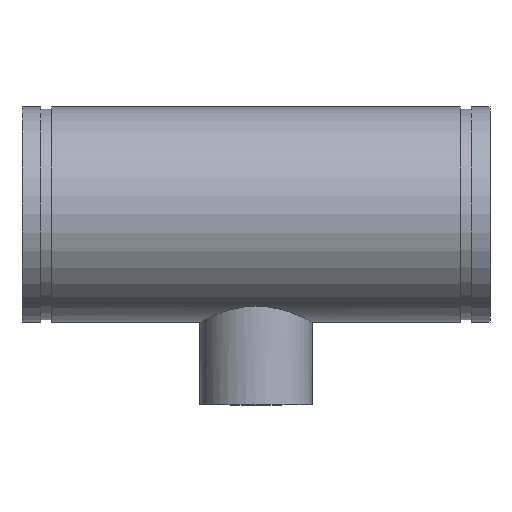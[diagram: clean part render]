
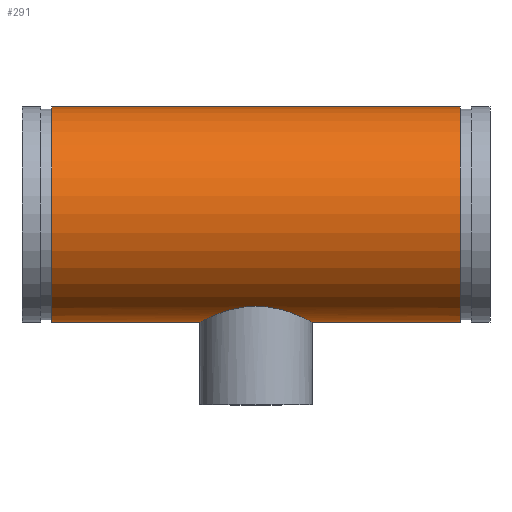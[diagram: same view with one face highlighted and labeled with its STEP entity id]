
A CAD part, top view. The second image highlights one B-rep face of the part: STEP entity #291.
In plain terms, the highlighted cylindrical face has radius 109.537 mm (diameter 219.075 mm), a full revolution.
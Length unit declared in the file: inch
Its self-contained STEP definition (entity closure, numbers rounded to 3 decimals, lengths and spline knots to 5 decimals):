
#45=B_SPLINE_CURVE_WITH_KNOTS('',3,(#511,#512,#513,#514,#515,#516,#517,
#518,#519,#520,#521,#522,#523,#524,#525,#526,#527,#528,#529,#530,#531,#532,
#533,#534,#535,#536,#537,#538,#539,#540,#541,#542,#543,#544,#545,#546,#547,
#548,#549,#550,#551,#552,#553,#554,#555,#556,#557,#558,#559,#560),
 .UNSPECIFIED.,.F.,.F.,(4,2,2,2,2,2,2,2,2,2,2,2,2,2,2,2,2,2,2,2,2,2,2,2,
4),(0.,1.10251,2.20503,3.30754,4.41005,
5.50891,6.60776,7.70662,8.80548,9.90433,
11.00319,12.10205,13.20091,14.30342,15.40593,
16.50844,17.61096,18.71347,19.81598,20.91849,
22.02101,23.11986,24.21872,25.31758,26.41643),
 .UNSPECIFIED.);
#46=B_SPLINE_CURVE_WITH_KNOTS('',3,(#561,#562,#563,#564,#565,#566,#567,
#568,#569,#570,#571,#572,#573,#574,#575,#576,#577,#578),.UNSPECIFIED.,.F.,
 .F.,(4,2,2,2,2,2,2,2,4),(26.41643,27.51529,28.61415,
29.713,30.81186,31.91437,33.01689,34.1194,
35.22191),.UNSPECIFIED.);
#51=LINE('',#508,#59);
#59=VECTOR('',#410,4.3125);
#67=CYLINDRICAL_SURFACE('',#338,4.3125);
#77=FACE_BOUND('',#108,.T.);
#88=FACE_OUTER_BOUND('',#107,.T.);
#107=EDGE_LOOP('',(#221,#222,#223,#224));
#108=EDGE_LOOP('',(#225,#226));
#121=CIRCLE('',#321,4.3125);
#132=CIRCLE('',#337,4.3125);
#141=VERTEX_POINT('',#476);
#152=VERTEX_POINT('',#505);
#153=VERTEX_POINT('',#509);
#154=VERTEX_POINT('',#510);
#165=EDGE_CURVE('',#141,#141,#121,.T.);
#178=EDGE_CURVE('',#152,#152,#132,.T.);
#179=EDGE_CURVE('',#152,#141,#51,.T.);
#180=EDGE_CURVE('',#153,#154,#45,.T.);
#181=EDGE_CURVE('',#154,#153,#46,.T.);
#221=ORIENTED_EDGE('',*,*,#178,.T.);
#222=ORIENTED_EDGE('',*,*,#179,.T.);
#223=ORIENTED_EDGE('',*,*,#165,.T.);
#224=ORIENTED_EDGE('',*,*,#179,.F.);
#225=ORIENTED_EDGE('',*,*,#180,.F.);
#226=ORIENTED_EDGE('',*,*,#181,.F.);
#291=ADVANCED_FACE('',(#88,#77),#67,.T.);
#321=AXIS2_PLACEMENT_3D('',#477,#372,#373);
#337=AXIS2_PLACEMENT_3D('',#506,#406,#407);
#338=AXIS2_PLACEMENT_3D('',#507,#408,#409);
#372=DIRECTION('center_axis',(-1.,0.,0.));
#373=DIRECTION('ref_axis',(0.,-1.,0.));
#406=DIRECTION('center_axis',(1.,0.,0.));
#407=DIRECTION('ref_axis',(0.,-1.,0.));
#408=DIRECTION('center_axis',(-1.,0.,0.));
#409=DIRECTION('ref_axis',(0.,-1.,0.));
#410=DIRECTION('',(1.,0.,0.));
#476=CARTESIAN_POINT('',(8.192,4.3125,0.));
#477=CARTESIAN_POINT('Origin',(8.192,0.,0.));
#505=CARTESIAN_POINT('',(-8.192,4.3125,0.));
#506=CARTESIAN_POINT('Origin',(-8.192,0.,0.));
#507=CARTESIAN_POINT('Origin',(9.38,0.,0.));
#508=CARTESIAN_POINT('',(9.38,4.3125,0.));
#509=CARTESIAN_POINT('',(0.,-3.67902,-2.25));
#510=CARTESIAN_POINT('',(-2.25,-4.3125,0.));
#511=CARTESIAN_POINT('Ctrl Pts',(0.,-3.67902,
-2.25));
#512=CARTESIAN_POINT('Ctrl Pts',(0.14469,-3.67902,-2.25));
#513=CARTESIAN_POINT('Ctrl Pts',(0.2931,-3.6878,-2.23583));
#514=CARTESIAN_POINT('Ctrl Pts',(0.5862,-3.72258,-2.17743));
#515=CARTESIAN_POINT('Ctrl Pts',(0.73089,-3.74851,-2.13323));
#516=CARTESIAN_POINT('Ctrl Pts',(1.00687,-3.81194,-2.01769));
#517=CARTESIAN_POINT('Ctrl Pts',(1.13844,-3.84942,-1.94626));
#518=CARTESIAN_POINT('Ctrl Pts',(1.38124,-3.92808,-1.78217));
#519=CARTESIAN_POINT('Ctrl Pts',(1.49249,-3.96919,-1.68949));
#520=CARTESIAN_POINT('Ctrl Pts',(1.68917,-4.04726,-1.49281));
#521=CARTESIAN_POINT('Ctrl Pts',(1.7818,-4.08713,-1.38173));
#522=CARTESIAN_POINT('Ctrl Pts',(1.94601,-4.16134,-1.13887));
#523=CARTESIAN_POINT('Ctrl Pts',(2.01761,-4.19564,-1.00707));
#524=CARTESIAN_POINT('Ctrl Pts',(2.13335,-4.2525,-0.73061));
#525=CARTESIAN_POINT('Ctrl Pts',(2.17758,-4.27509,-0.58567));
#526=CARTESIAN_POINT('Ctrl Pts',(2.23591,-4.30509,-0.29247));
#527=CARTESIAN_POINT('Ctrl Pts',(2.25,-4.3125,-0.14421));
#528=CARTESIAN_POINT('Ctrl Pts',(2.25,-4.3125,0.14421));
#529=CARTESIAN_POINT('Ctrl Pts',(2.23591,-4.30509,0.29247));
#530=CARTESIAN_POINT('Ctrl Pts',(2.17758,-4.27509,0.58567));
#531=CARTESIAN_POINT('Ctrl Pts',(2.13335,-4.2525,0.73061));
#532=CARTESIAN_POINT('Ctrl Pts',(2.01761,-4.19564,1.00707));
#533=CARTESIAN_POINT('Ctrl Pts',(1.94601,-4.16134,1.13887));
#534=CARTESIAN_POINT('Ctrl Pts',(1.7818,-4.08713,1.38173));
#535=CARTESIAN_POINT('Ctrl Pts',(1.68917,-4.04726,1.49281));
#536=CARTESIAN_POINT('Ctrl Pts',(1.49249,-3.96919,1.68949));
#537=CARTESIAN_POINT('Ctrl Pts',(1.38124,-3.92808,1.78217));
#538=CARTESIAN_POINT('Ctrl Pts',(1.13844,-3.84942,1.94626));
#539=CARTESIAN_POINT('Ctrl Pts',(1.00687,-3.81194,2.01769));
#540=CARTESIAN_POINT('Ctrl Pts',(0.73089,-3.74851,2.13323));
#541=CARTESIAN_POINT('Ctrl Pts',(0.5862,-3.72258,2.17743));
#542=CARTESIAN_POINT('Ctrl Pts',(0.2931,-3.6878,2.23583));
#543=CARTESIAN_POINT('Ctrl Pts',(0.14469,-3.67902,2.25));
#544=CARTESIAN_POINT('Ctrl Pts',(-0.14469,-3.67902,2.25));
#545=CARTESIAN_POINT('Ctrl Pts',(-0.2931,-3.6878,2.23583));
#546=CARTESIAN_POINT('Ctrl Pts',(-0.5862,-3.72258,2.17743));
#547=CARTESIAN_POINT('Ctrl Pts',(-0.73089,-3.74851,2.13323));
#548=CARTESIAN_POINT('Ctrl Pts',(-1.00687,-3.81194,2.01769));
#549=CARTESIAN_POINT('Ctrl Pts',(-1.13844,-3.84942,1.94626));
#550=CARTESIAN_POINT('Ctrl Pts',(-1.38124,-3.92808,1.78217));
#551=CARTESIAN_POINT('Ctrl Pts',(-1.49249,-3.96919,1.68949));
#552=CARTESIAN_POINT('Ctrl Pts',(-1.68917,-4.04726,1.49281));
#553=CARTESIAN_POINT('Ctrl Pts',(-1.7818,-4.08713,1.38173));
#554=CARTESIAN_POINT('Ctrl Pts',(-1.94601,-4.16134,1.13887));
#555=CARTESIAN_POINT('Ctrl Pts',(-2.01761,-4.19564,1.00707));
#556=CARTESIAN_POINT('Ctrl Pts',(-2.13335,-4.2525,0.73061));
#557=CARTESIAN_POINT('Ctrl Pts',(-2.17758,-4.27509,0.58567));
#558=CARTESIAN_POINT('Ctrl Pts',(-2.23591,-4.30509,0.29247));
#559=CARTESIAN_POINT('Ctrl Pts',(-2.25,-4.3125,0.14421));
#560=CARTESIAN_POINT('Ctrl Pts',(-2.25,-4.3125,0.));
#561=CARTESIAN_POINT('Ctrl Pts',(-2.25,-4.3125,0.));
#562=CARTESIAN_POINT('Ctrl Pts',(-2.25,-4.3125,-0.14421));
#563=CARTESIAN_POINT('Ctrl Pts',(-2.23591,-4.30509,-0.29247));
#564=CARTESIAN_POINT('Ctrl Pts',(-2.17758,-4.27509,-0.58567));
#565=CARTESIAN_POINT('Ctrl Pts',(-2.13335,-4.2525,-0.73061));
#566=CARTESIAN_POINT('Ctrl Pts',(-2.01761,-4.19564,-1.00707));
#567=CARTESIAN_POINT('Ctrl Pts',(-1.94601,-4.16134,-1.13887));
#568=CARTESIAN_POINT('Ctrl Pts',(-1.7818,-4.08713,-1.38173));
#569=CARTESIAN_POINT('Ctrl Pts',(-1.68917,-4.04726,-1.49281));
#570=CARTESIAN_POINT('Ctrl Pts',(-1.49249,-3.96919,-1.68949));
#571=CARTESIAN_POINT('Ctrl Pts',(-1.38124,-3.92808,-1.78217));
#572=CARTESIAN_POINT('Ctrl Pts',(-1.13844,-3.84942,-1.94626));
#573=CARTESIAN_POINT('Ctrl Pts',(-1.00687,-3.81194,-2.01769));
#574=CARTESIAN_POINT('Ctrl Pts',(-0.73089,-3.74851,-2.13323));
#575=CARTESIAN_POINT('Ctrl Pts',(-0.5862,-3.72258,-2.17743));
#576=CARTESIAN_POINT('Ctrl Pts',(-0.2931,-3.6878,-2.23583));
#577=CARTESIAN_POINT('Ctrl Pts',(-0.14469,-3.67902,-2.25));
#578=CARTESIAN_POINT('Ctrl Pts',(0.,-3.67902,
-2.25));
